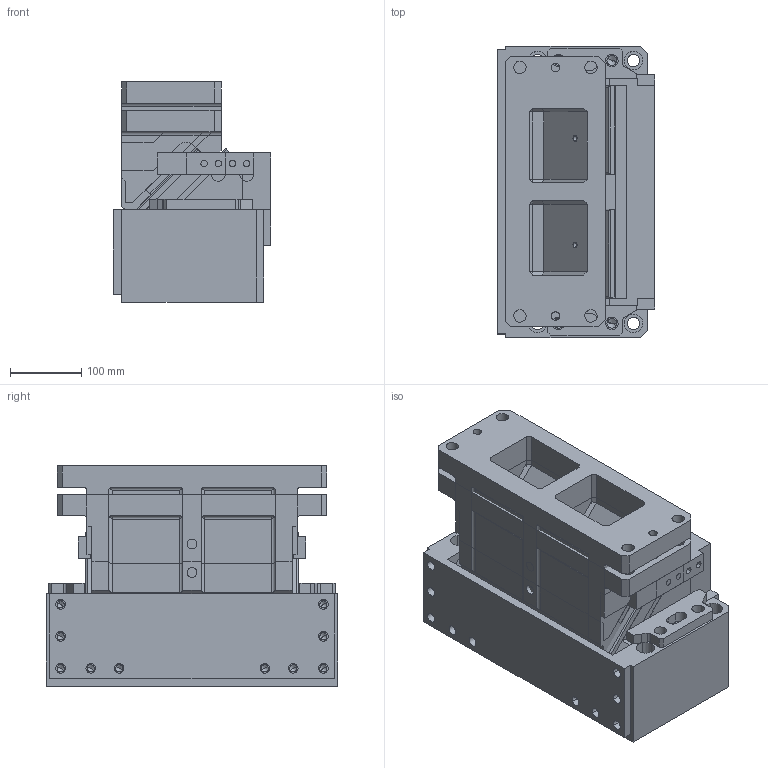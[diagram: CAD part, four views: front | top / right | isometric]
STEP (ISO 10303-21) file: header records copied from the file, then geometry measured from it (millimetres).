
FILE_DESCRIPTION(('CATIA V5 STEP','CAx-IF Rec.Pracs.--- Model Styling and Organization---1.4--- 2014-01-23','CAx-IF Rec.Pracs.---3D Tessellated Data Validation Properties---0.5---2014-09-14'),'2;1');
FILE_NAME('H:\_COMPRESS_2\2016.14.00.300.040.1.2__CM.stp','2020-11-18T12:57:06+00:00',('${USER}'),('AUDI AG, ${GROUP}'),'CATIA Version 5-6 Release 2018 SP3 HF27','CATIA V5 STEP AP242','none');
FILE_SCHEMA(('AP242_MANAGED_MODEL_BASED_3D_ENGINEERING_MIM_LF {1 0 10303 442 1 1 4}'));
Length unit declared in the file: millimetre
Products named in the file (1): 2016.14.00.300.040.1.2__CM
Bounding box: 222 x 410 x 310 mm (x, y, z)
Volume: 23998208.7 mm3; surface area: 1645971 mm2
Topology: 4 solids, 10 shells, 1146 faces, 2760 edges, 1716 vertices
Faces by surface type: plane 549, cylinder 451, cone 76, torus 64, sphere 4, bspline 2
Entity records: 31739 total; most frequent: CARTESIAN_POINT 7200, ORIENTED_EDGE 5394, DIRECTION 4072, EDGE_CURVE 2697, VERTEX_POINT 1712, AXIS2_PLACEMENT_3D 1683, VECTOR 1602, LINE 1602
